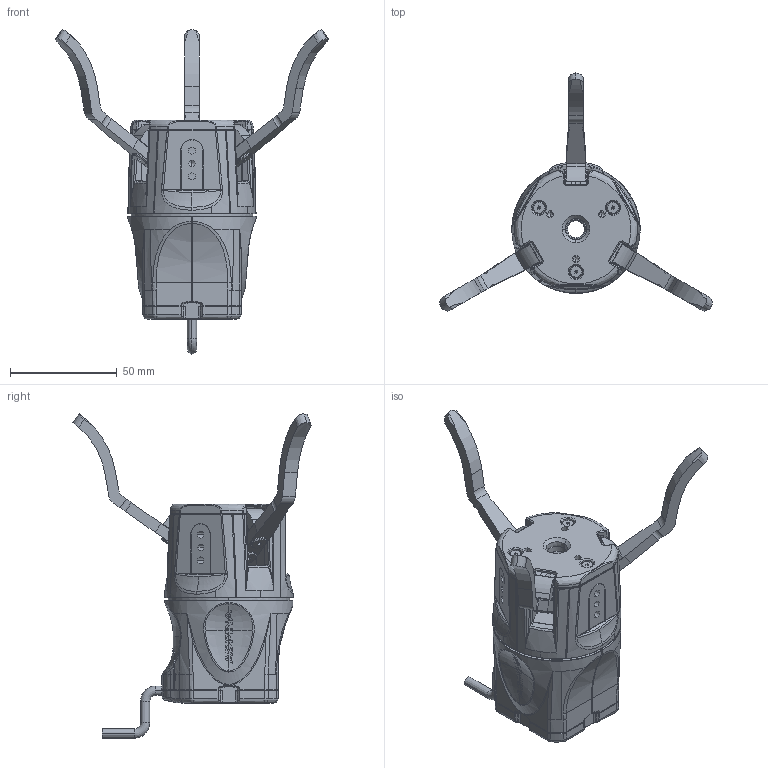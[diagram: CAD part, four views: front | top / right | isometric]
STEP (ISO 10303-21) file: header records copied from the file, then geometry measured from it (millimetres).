
FILE_DESCRIPTION (( 'STEP AP214' ), '1' );
FILE_NAME ('open.STEP', '2021-01-15T02:10:21', ( '' ), ( '' ), 'SwSTEP 2.0', 'SolidWorks 2018', '' );
FILE_SCHEMA (( 'AUTOMOTIVE_DESIGN' ));
Length unit declared in the file: millimetre
Products named in the file (1): open
Bounding box: 127.57 x 111.51 x 151.84 mm (x, y, z)
Volume: 211142.4 mm3; surface area: 69913.6 mm2
Topology: 1 solids, 74 shells, 4166 faces, 11501 edges, 7360 vertices
Faces by surface type: plane 1585, bspline 1167, cylinder 1082, cone 164, torus 88, sphere 80
Entity records: 258791 total; most frequent: CARTESIAN_POINT 145435, ORIENTED_EDGE 22732, DIRECTION 14627, EDGE_CURVE 11366, VERTEX_POINT 7350, AXIS2_PLACEMENT_3D 5180, EDGE_LOOP 4282, LINE 4267
